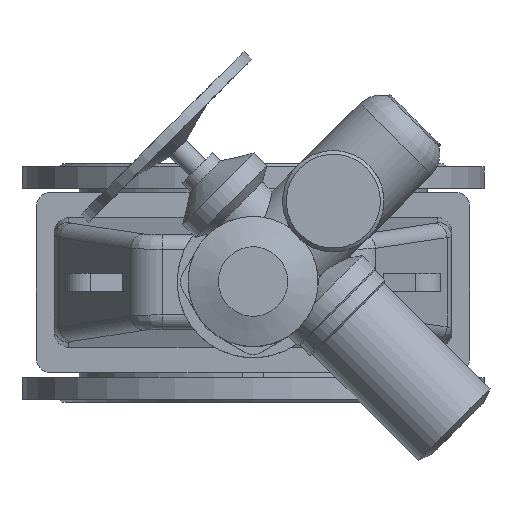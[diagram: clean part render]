
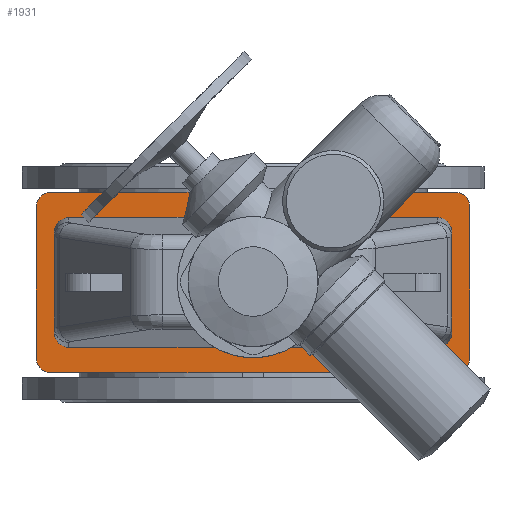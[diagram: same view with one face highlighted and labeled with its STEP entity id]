
A CAD part, top view. The second image highlights one B-rep face of the part: STEP entity #1931.
In plain terms, the highlighted planar face has unit normal (0, 0, 1).
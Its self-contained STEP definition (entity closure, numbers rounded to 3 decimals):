
#1931=ADVANCED_FACE('',(#6748,#6750),#6752,.T.);
#6748=FACE_BOUND('',#6749,.T.);
#6749=EDGE_LOOP('',(#9638,#9639,#9640,#9641,#9642,#9643,#9644,#9645));
#6750=FACE_BOUND('',#6751,.T.);
#6751=EDGE_LOOP('',(#9646,#9647,#9648,#9649,#9650,#9651,#9652,#9653));
#6752=PLANE('',#6753);
#6753=AXIS2_PLACEMENT_3D('',#6754,#6755,#6756);
#6754=CARTESIAN_POINT('',(0.,0.,566.));
#6755=DIRECTION('',(0.,-0.,1.));
#6756=DIRECTION('',(0.,1.,0.));
#9638=ORIENTED_EDGE('',*,*,#10830,.F.);
#9639=ORIENTED_EDGE('',*,*,#10843,.T.);
#9640=ORIENTED_EDGE('',*,*,#10842,.F.);
#9641=ORIENTED_EDGE('',*,*,#10840,.T.);
#9642=ORIENTED_EDGE('',*,*,#10838,.F.);
#9643=ORIENTED_EDGE('',*,*,#10836,.T.);
#9644=ORIENTED_EDGE('',*,*,#10834,.F.);
#9645=ORIENTED_EDGE('',*,*,#10831,.T.);
#9646=ORIENTED_EDGE('',*,*,#10844,.F.);
#9647=ORIENTED_EDGE('',*,*,#10845,.F.);
#9648=ORIENTED_EDGE('',*,*,#10846,.F.);
#9649=ORIENTED_EDGE('',*,*,#10847,.F.);
#9650=ORIENTED_EDGE('',*,*,#10848,.F.);
#9651=ORIENTED_EDGE('',*,*,#10849,.F.);
#9652=ORIENTED_EDGE('',*,*,#10850,.F.);
#9653=ORIENTED_EDGE('',*,*,#10851,.F.);
#10830=EDGE_CURVE('',#12017,#12015,#12019,.F.);
#10831=EDGE_CURVE('',#12020,#12015,#12021,.T.);
#10834=EDGE_CURVE('',#12020,#12023,#12025,.F.);
#10836=EDGE_CURVE('',#12026,#12023,#12028,.T.);
#10838=EDGE_CURVE('',#12026,#12029,#12031,.F.);
#10840=EDGE_CURVE('',#12032,#12029,#12034,.T.);
#10842=EDGE_CURVE('',#12032,#12035,#12037,.F.);
#10843=EDGE_CURVE('',#12017,#12035,#12038,.T.);
#10844=EDGE_CURVE('',#12039,#12040,#12041,.F.);
#10845=EDGE_CURVE('',#12042,#12039,#12043,.T.);
#10846=EDGE_CURVE('',#12044,#12042,#12045,.T.);
#10847=EDGE_CURVE('',#12046,#12044,#12047,.T.);
#10848=EDGE_CURVE('',#12048,#12046,#12049,.F.);
#10849=EDGE_CURVE('',#12050,#12048,#12051,.T.);
#10850=EDGE_CURVE('',#12052,#12050,#12053,.T.);
#10851=EDGE_CURVE('',#12040,#12052,#12054,.T.);
#12015=VERTEX_POINT('',#15069);
#12017=VERTEX_POINT('',#15073);
#12019=CIRCLE('',#15077,20.);
#12020=VERTEX_POINT('',#15081);
#12021=LINE('',#15082,#15083);
#12023=VERTEX_POINT('',#15088);
#12025=CIRCLE('',#15092,20.);
#12026=VERTEX_POINT('',#15096);
#12028=LINE('',#15100,#15101);
#12029=VERTEX_POINT('',#15103);
#12031=CIRCLE('',#15107,20.);
#12032=VERTEX_POINT('',#15111);
#12034=LINE('',#15115,#15116);
#12035=VERTEX_POINT('',#15118);
#12037=CIRCLE('',#15122,20.);
#12038=LINE('',#15126,#15127);
#12039=VERTEX_POINT('',#15129);
#12040=VERTEX_POINT('',#15130);
#12041=(BOUNDED_CURVE()B_SPLINE_CURVE(3,
(#15131,#15132,#15133,#15134),
.UNSPECIFIED.,.F.,.F.)B_SPLINE_CURVE_WITH_KNOTS((4,4),
(0.,1.),
.UNSPECIFIED.)CURVE()GEOMETRIC_REPRESENTATION_ITEM()RATIONAL_B_SPLINE_CURVE((1.,
0.805,0.805,1.))REPRESENTATION_ITEM(''));
#12042=VERTEX_POINT('',#15135);
#12043=LINE('',#15136,#15137);
#12044=VERTEX_POINT('',#15139);
#12045=(BOUNDED_CURVE()B_SPLINE_CURVE(3,
(#15140,#15141,#15142,#15143),
.UNSPECIFIED.,.F.,.F.)B_SPLINE_CURVE_WITH_KNOTS((4,4),
(0.,1.),
.UNSPECIFIED.)CURVE()GEOMETRIC_REPRESENTATION_ITEM()RATIONAL_B_SPLINE_CURVE((1.,
0.805,0.805,1.))REPRESENTATION_ITEM(''));
#12046=VERTEX_POINT('',#15144);
#12047=LINE('',#15145,#15146);
#12048=VERTEX_POINT('',#15148);
#12049=(BOUNDED_CURVE()B_SPLINE_CURVE(3,
(#15149,#15150,#15151,#15152),
.UNSPECIFIED.,.F.,.F.)B_SPLINE_CURVE_WITH_KNOTS((4,4),
(0.,1.),
.UNSPECIFIED.)CURVE()GEOMETRIC_REPRESENTATION_ITEM()RATIONAL_B_SPLINE_CURVE((1.,
0.805,0.805,1.))REPRESENTATION_ITEM(''));
#12050=VERTEX_POINT('',#15153);
#12051=LINE('',#15154,#15155);
#12052=VERTEX_POINT('',#15157);
#12053=(BOUNDED_CURVE()B_SPLINE_CURVE(3,
(#15158,#15159,#15160,#15161),
.UNSPECIFIED.,.F.,.F.)B_SPLINE_CURVE_WITH_KNOTS((4,4),
(0.,1.),
.UNSPECIFIED.)CURVE()GEOMETRIC_REPRESENTATION_ITEM()RATIONAL_B_SPLINE_CURVE((1.,
0.805,0.805,1.))REPRESENTATION_ITEM(''));
#12054=LINE('',#15162,#15163);
#15069=CARTESIAN_POINT('',(-300.,-105.,566.));
#15073=CARTESIAN_POINT('',(-280.,-125.,566.));
#15077=AXIS2_PLACEMENT_3D('',#15078,#15079,#15080);
#15078=CARTESIAN_POINT('',(-280.,-105.,566.));
#15079=DIRECTION('',(0.,-0.,1.));
#15080=DIRECTION('',(-1.,0.,0.));
#15081=CARTESIAN_POINT('',(-300.,105.,566.));
#15082=CARTESIAN_POINT('',(-300.,105.,566.));
#15083=VECTOR('',#15084,1.);
#15084=DIRECTION('',(0.,-1.,0.));
#15088=CARTESIAN_POINT('',(-280.,125.,566.));
#15092=AXIS2_PLACEMENT_3D('',#15093,#15094,#15095);
#15093=CARTESIAN_POINT('',(-280.,105.,566.));
#15094=DIRECTION('',(0.,-0.,1.));
#15095=DIRECTION('',(0.,1.,0.));
#15096=CARTESIAN_POINT('',(280.,125.,566.));
#15100=CARTESIAN_POINT('',(280.,125.,566.));
#15101=VECTOR('',#15102,1.);
#15102=DIRECTION('',(-1.,0.,0.));
#15103=CARTESIAN_POINT('',(300.,105.,566.));
#15107=AXIS2_PLACEMENT_3D('',#15108,#15109,#15110);
#15108=CARTESIAN_POINT('',(280.,105.,566.));
#15109=DIRECTION('',(0.,-0.,1.));
#15110=DIRECTION('',(1.,0.,0.));
#15111=CARTESIAN_POINT('',(300.,-105.,566.));
#15115=CARTESIAN_POINT('',(300.,-105.,566.));
#15116=VECTOR('',#15117,1.);
#15117=DIRECTION('',(0.,1.,0.));
#15118=CARTESIAN_POINT('',(280.,-125.,566.));
#15122=AXIS2_PLACEMENT_3D('',#15123,#15124,#15125);
#15123=CARTESIAN_POINT('',(280.,-105.,566.));
#15124=DIRECTION('',(0.,-0.,1.));
#15125=DIRECTION('',(0.,-1.,0.));
#15126=CARTESIAN_POINT('',(-280.,-125.,566.));
#15127=VECTOR('',#15128,1.);
#15128=DIRECTION('',(1.,0.,0.));
#15129=CARTESIAN_POINT('',(255.,-90.,566.));
#15130=CARTESIAN_POINT('',(275.,-69.924,566.));
#15131=CARTESIAN_POINT('',(275.,-69.924,566.));
#15132=CARTESIAN_POINT('',(275.,-81.684,566.));
#15133=CARTESIAN_POINT('',(266.716,-90.,566.));
#15134=CARTESIAN_POINT('',(255.,-90.,566.));
#15135=CARTESIAN_POINT('',(-255.,-90.,566.));
#15136=CARTESIAN_POINT('',(-255.,-90.,566.));
#15137=VECTOR('',#15138,1.);
#15138=DIRECTION('',(1.,0.,0.));
#15139=CARTESIAN_POINT('',(-275.,-69.924,566.));
#15140=CARTESIAN_POINT('',(-275.,-69.924,566.));
#15141=CARTESIAN_POINT('',(-275.,-81.684,566.));
#15142=CARTESIAN_POINT('',(-266.716,-90.,566.));
#15143=CARTESIAN_POINT('',(-255.,-90.,566.));
#15144=CARTESIAN_POINT('',(-275.,69.924,566.));
#15145=CARTESIAN_POINT('',(-275.,69.924,566.));
#15146=VECTOR('',#15147,1.);
#15147=DIRECTION('',(0.,-1.,0.));
#15148=CARTESIAN_POINT('',(-255.,90.,566.));
#15149=CARTESIAN_POINT('',(-275.,69.924,566.));
#15150=CARTESIAN_POINT('',(-275.,81.684,566.));
#15151=CARTESIAN_POINT('',(-266.716,90.,566.));
#15152=CARTESIAN_POINT('',(-255.,90.,566.));
#15153=CARTESIAN_POINT('',(255.,90.,566.));
#15154=CARTESIAN_POINT('',(255.,90.,566.));
#15155=VECTOR('',#15156,1.);
#15156=DIRECTION('',(-1.,0.,0.));
#15157=CARTESIAN_POINT('',(275.,69.924,566.));
#15158=CARTESIAN_POINT('',(275.,69.924,566.));
#15159=CARTESIAN_POINT('',(275.,81.684,566.));
#15160=CARTESIAN_POINT('',(266.716,90.,566.));
#15161=CARTESIAN_POINT('',(255.,90.,566.));
#15162=CARTESIAN_POINT('',(275.,-69.924,566.));
#15163=VECTOR('',#15164,1.);
#15164=DIRECTION('',(0.,1.,0.));
